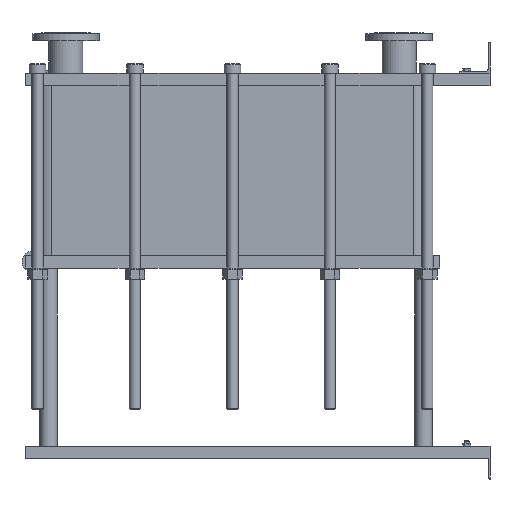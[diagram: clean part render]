
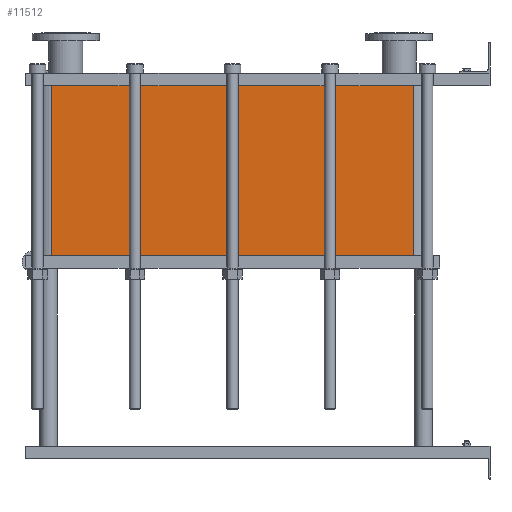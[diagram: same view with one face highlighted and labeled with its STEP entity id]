
A CAD part, left-side view. The second image highlights one B-rep face of the part: STEP entity #11512.
In plain terms, the highlighted planar face has unit normal (-1, 0, 0).
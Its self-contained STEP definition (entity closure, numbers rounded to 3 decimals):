
#1129=LINE('',#23232,#2102);
#1130=LINE('',#23236,#2103);
#1131=LINE('',#23238,#2104);
#1132=LINE('',#23239,#2105);
#2102=VECTOR('',#15887,10.);
#2103=VECTOR('',#15892,10.);
#2104=VECTOR('',#15893,10.);
#2105=VECTOR('',#15894,10.);
#3267=FACE_OUTER_BOUND('',#4093,.T.);
#4093=EDGE_LOOP('',(#10103,#10104,#10105,#10106));
#5642=VERTEX_POINT('',#23229);
#5643=VERTEX_POINT('',#23231);
#5644=VERTEX_POINT('',#23235);
#5645=VERTEX_POINT('',#23237);
#7159=EDGE_CURVE('',#5643,#5642,#1129,.T.);
#7161=EDGE_CURVE('',#5642,#5644,#1130,.T.);
#7162=EDGE_CURVE('',#5645,#5644,#1131,.T.);
#7163=EDGE_CURVE('',#5645,#5643,#1132,.T.);
#10103=ORIENTED_EDGE('',*,*,#7161,.T.);
#10104=ORIENTED_EDGE('',*,*,#7162,.F.);
#10105=ORIENTED_EDGE('',*,*,#7163,.T.);
#10106=ORIENTED_EDGE('',*,*,#7159,.T.);
#10857=PLANE('',#12751);
#11512=ADVANCED_FACE('',(#3267),#10857,.T.);
#12751=AXIS2_PLACEMENT_3D('',#23234,#15890,#15891);
#15887=DIRECTION('',(0.,0.,-1.));
#15890=DIRECTION('center_axis',(-1.,0.,0.));
#15891=DIRECTION('ref_axis',(0.,1.,0.));
#15892=DIRECTION('',(0.,-1.,0.));
#15893=DIRECTION('',(0.,0.,-1.));
#15894=DIRECTION('',(0.,1.,0.));
#23229=CARTESIAN_POINT('',(-200.,1414.,-548.55));
#23231=CARTESIAN_POINT('',(-200.,1414.,0.));
#23232=CARTESIAN_POINT('',(-200.,1414.,0.));
#23234=CARTESIAN_POINT('Origin',(-200.,248.,0.));
#23235=CARTESIAN_POINT('',(-200.,248.,-548.55));
#23236=CARTESIAN_POINT('',(-200.,539.5,-548.55));
#23237=CARTESIAN_POINT('',(-200.,248.,0.));
#23238=CARTESIAN_POINT('',(-200.,248.,0.));
#23239=CARTESIAN_POINT('',(-200.,248.,0.));
